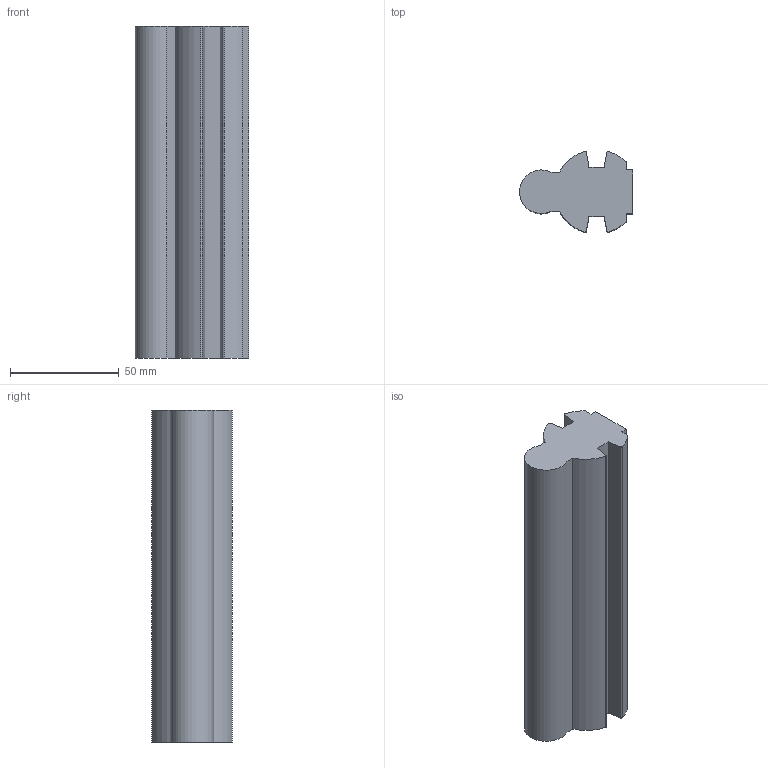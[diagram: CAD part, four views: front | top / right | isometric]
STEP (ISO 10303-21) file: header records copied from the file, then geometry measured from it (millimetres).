
FILE_DESCRIPTION(/* description */ (''),/* implementation_level */ '2;1');
FILE_NAME(/* name */ 'mp5-center.step',/* time_stamp */ '2026-08-13T21:53:54-07:00',/* author */ (''),/* organization */ (''),/* preprocessor_version */ 'ST-DEVELOPER v20.1',/* originating_system */ 'Autodesk Translation Framework v15.8.0.0',/* authorisation */ '');
FILE_SCHEMA (('AUTOMOTIVE_DESIGN { 1 0 10303 214 3 1 1 }'));
Length unit declared in the file: inch
Products named in the file (2): HK_Mandrel; Mp5 Version
Assembly tree (1 placements, depth 2):
  HK_Mandrel
    Mp5 Version
Bounding box: 51.92 x 37.07 x 152.4 mm (x, y, z)
Volume: 194441.9 mm3; surface area: 29528.8 mm2
Topology: 1 solids, 1 shells, 24 faces, 66 edges, 44 vertices
Faces by surface type: plane 15, cylinder 9
Entity records: 823 total; most frequent: DIRECTION 138, CARTESIAN_POINT 137, ORIENTED_EDGE 132, EDGE_CURVE 66, LINE 48, VECTOR 48, AXIS2_PLACEMENT_3D 45, VERTEX_POINT 44
